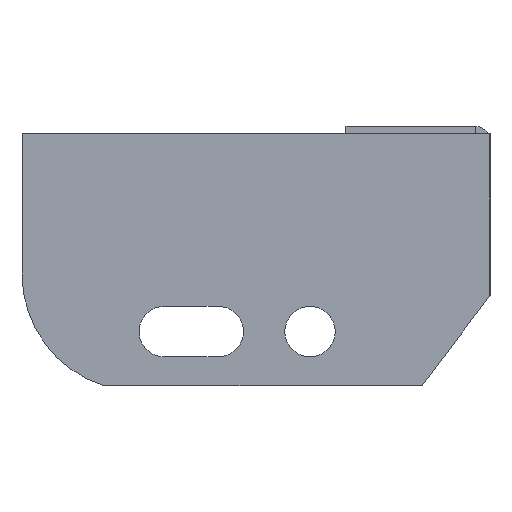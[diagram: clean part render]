
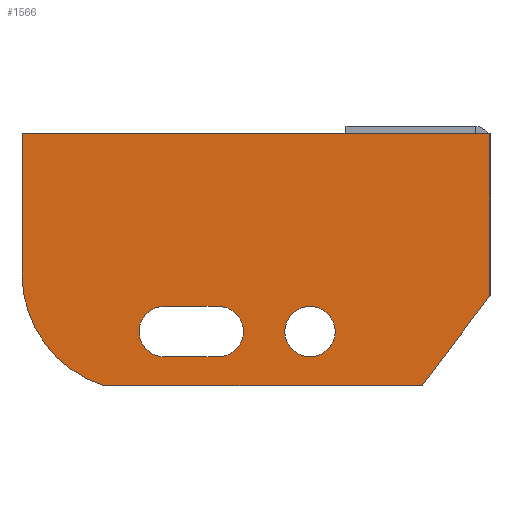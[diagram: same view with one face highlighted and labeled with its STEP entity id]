
A CAD part, left-side view. The second image highlights one B-rep face of the part: STEP entity #1566.
In plain terms, the highlighted planar face has unit normal (-1, 0, 0) as drawn and (0, 0, 1) by its records, which use the part's own axes.
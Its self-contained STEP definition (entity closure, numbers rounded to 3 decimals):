
#1 = CARTESIAN_POINT ( 'NONE',  ( -57., -55., 3. ) ) ;
#85 = DIRECTION ( 'NONE',  ( 1., 0., 0. ) ) ;
#88 = VERTEX_POINT ( 'NONE', #1084 ) ;
#103 = CARTESIAN_POINT ( 'NONE',  ( -130., -39., 3. ) ) ;
#145 = CIRCLE ( 'NONE', #832, 7. ) ;
#156 = ORIENTED_EDGE ( 'NONE', *, *, #1665, .F. ) ;
#174 = CARTESIAN_POINT ( 'NONE',  ( -90.5, -48., 3. ) ) ;
#178 = EDGE_CURVE ( 'NONE', #315, #1509, #323, .T. ) ;
#182 = DIRECTION ( 'NONE',  ( 1., 0., 0. ) ) ;
#197 = FACE_BOUND ( 'NONE', #1816, .T. ) ;
#206 = CARTESIAN_POINT ( 'NONE',  ( -50., -55., 3. ) ) ;
#219 = VERTEX_POINT ( 'NONE', #1748 ) ;
#220 = VECTOR ( 'NONE', #1913, 1000. ) ;
#226 = FACE_OUTER_BOUND ( 'NONE', #1947, .T. ) ;
#234 = DIRECTION ( 'NONE',  ( 0., 0., 1. ) ) ;
#248 = EDGE_CURVE ( 'NONE', #1177, #1603, #586, .T. ) ;
#264 = ORIENTED_EDGE ( 'NONE', *, *, #178, .T. ) ;
#275 = ORIENTED_EDGE ( 'NONE', *, *, #1085, .T. ) ;
#315 = VERTEX_POINT ( 'NONE', #978 ) ;
#323 = LINE ( 'NONE', #776, #1139 ) ;
#325 = CIRCLE ( 'NONE', #685, 7. ) ;
#337 = LINE ( 'NONE', #1271, #857 ) ;
#340 = EDGE_CURVE ( 'NONE', #851, #219, #337, .T. ) ;
#399 = EDGE_CURVE ( 'NONE', #1953, #490, #1900, .T. ) ;
#435 = DIRECTION ( 'NONE',  ( 1., 0., 0. ) ) ;
#444 = EDGE_CURVE ( 'NONE', #1928, #315, #867, .T. ) ;
#457 = CARTESIAN_POINT ( 'NONE',  ( 0., -45., 3. ) ) ;
#490 = VERTEX_POINT ( 'NONE', #566 ) ;
#500 = VERTEX_POINT ( 'NONE', #103 ) ;
#527 = DIRECTION ( 'NONE',  ( 1., 0., 0. ) ) ;
#530 = CARTESIAN_POINT ( 'NONE',  ( -90.5, -62., 3. ) ) ;
#541 = DIRECTION ( 'NONE',  ( 0., 0., 1. ) ) ;
#556 = DIRECTION ( 'NONE',  ( 1., 0., 0. ) ) ;
#566 = CARTESIAN_POINT ( 'NONE',  ( -97.5, -55., 3. ) ) ;
#574 = VECTOR ( 'NONE', #182, 1000. ) ;
#586 = CIRCLE ( 'NONE', #1636, 7. ) ;
#588 = VECTOR ( 'NONE', #1026, 1000. ) ;
#627 = ORIENTED_EDGE ( 'NONE', *, *, #444, .T. ) ;
#666 = CIRCLE ( 'NONE', #1481, 7. ) ;
#667 = CARTESIAN_POINT ( 'NONE',  ( -75.5, -55., 3. ) ) ;
#685 = AXIS2_PLACEMENT_3D ( 'NONE', #1857, #738, #435 ) ;
#738 = DIRECTION ( 'NONE',  ( 0., 0., 1. ) ) ;
#773 = DIRECTION ( 'NONE',  ( 0.602, 0.799, 0. ) ) ;
#776 = CARTESIAN_POINT ( 'NONE',  ( 0., 0., 3. ) ) ;
#777 = LINE ( 'NONE', #1343, #779 ) ;
#779 = VECTOR ( 'NONE', #1385, 1000. ) ;
#788 = VECTOR ( 'NONE', #773, 1000. ) ;
#801 = ORIENTED_EDGE ( 'NONE', *, *, #248, .F. ) ;
#823 = ORIENTED_EDGE ( 'NONE', *, *, #1235, .T. ) ;
#832 = AXIS2_PLACEMENT_3D ( 'NONE', #667, #834, #845 ) ;
#834 = DIRECTION ( 'NONE',  ( 0., 0., 1. ) ) ;
#845 = DIRECTION ( 'NONE',  ( 1., 0., 0. ) ) ;
#851 = VERTEX_POINT ( 'NONE', #530 ) ;
#853 = FACE_BOUND ( 'NONE', #1431, .T. ) ;
#857 = VECTOR ( 'NONE', #1907, 1000. ) ;
#861 = CARTESIAN_POINT ( 'NONE',  ( -90.5, -55., 3. ) ) ;
#867 = LINE ( 'NONE', #889, #588 ) ;
#884 = ORIENTED_EDGE ( 'NONE', *, *, #919, .F. ) ;
#889 = CARTESIAN_POINT ( 'NONE',  ( 0., 0., 3. ) ) ;
#916 = EDGE_CURVE ( 'NONE', #219, #1440, #145, .T. ) ;
#919 = EDGE_CURVE ( 'NONE', #1603, #1177, #666, .T. ) ;
#928 = AXIS2_PLACEMENT_3D ( 'NONE', #1192, #1524, #2000 ) ;
#949 = ORIENTED_EDGE ( 'NONE', *, *, #1791, .T. ) ;
#956 = CARTESIAN_POINT ( 'NONE',  ( -130., 0., 3. ) ) ;
#975 = CARTESIAN_POINT ( 'NONE',  ( -107.26, -70., 3. ) ) ;
#978 = CARTESIAN_POINT ( 'NONE',  ( 0., 0., 3. ) ) ;
#1011 = CARTESIAN_POINT ( 'NONE',  ( -50., -55., 3. ) ) ;
#1026 = DIRECTION ( 'NONE',  ( 0., 1., 0. ) ) ;
#1074 = CARTESIAN_POINT ( 'NONE',  ( -43., -55., 3. ) ) ;
#1084 = CARTESIAN_POINT ( 'NONE',  ( -18.839, -70., 3. ) ) ;
#1085 = EDGE_CURVE ( 'NONE', #500, #1813, #1279, .T. ) ;
#1107 = AXIS2_PLACEMENT_3D ( 'NONE', #861, #1799, #556 ) ;
#1115 = CARTESIAN_POINT ( 'NONE',  ( -18.839, -70., 3. ) ) ;
#1126 = DIRECTION ( 'NONE',  ( 0., 0., 1. ) ) ;
#1130 = EDGE_CURVE ( 'NONE', #490, #851, #325, .T. ) ;
#1139 = VECTOR ( 'NONE', #2015, 1000. ) ;
#1151 = CARTESIAN_POINT ( 'NONE',  ( -75.5, -48., 3. ) ) ;
#1160 = CARTESIAN_POINT ( 'NONE',  ( -97.5, -39., 3. ) ) ;
#1163 = DIRECTION ( 'NONE',  ( 1., 0., 0. ) ) ;
#1177 = VERTEX_POINT ( 'NONE', #1074 ) ;
#1192 = CARTESIAN_POINT ( 'NONE',  ( -97.5, -39., 3. ) ) ;
#1235 = EDGE_CURVE ( 'NONE', #88, #1928, #1589, .T. ) ;
#1271 = CARTESIAN_POINT ( 'NONE',  ( -90.5, -62., 3. ) ) ;
#1279 = CIRCLE ( 'NONE', #928, 32.5 ) ;
#1339 = ORIENTED_EDGE ( 'NONE', *, *, #1814, .T. ) ;
#1343 = CARTESIAN_POINT ( 'NONE',  ( -90.5, -48., 3. ) ) ;
#1385 = DIRECTION ( 'NONE',  ( -1., 0., 0. ) ) ;
#1419 = CARTESIAN_POINT ( 'NONE',  ( 0., -45., 3. ) ) ;
#1431 = EDGE_LOOP ( 'NONE', ( #884, #801 ) ) ;
#1440 = VERTEX_POINT ( 'NONE', #1151 ) ;
#1472 = PLANE ( 'NONE',  #1493 ) ;
#1481 = AXIS2_PLACEMENT_3D ( 'NONE', #1011, #541, #1163 ) ;
#1493 = AXIS2_PLACEMENT_3D ( 'NONE', #1160, #234, #85 ) ;
#1509 = VERTEX_POINT ( 'NONE', #1625 ) ;
#1516 = ORIENTED_EDGE ( 'NONE', *, *, #1130, .F. ) ;
#1524 = DIRECTION ( 'NONE',  ( 0., 0., 1. ) ) ;
#1535 = ORIENTED_EDGE ( 'NONE', *, *, #916, .F. ) ;
#1566 = ADVANCED_FACE ( 'NONE', ( #226, #853, #197 ), #1472, .T. ) ;
#1589 = LINE ( 'NONE', #457, #788 ) ;
#1603 = VERTEX_POINT ( 'NONE', #1 ) ;
#1625 = CARTESIAN_POINT ( 'NONE',  ( -130., 0., 3. ) ) ;
#1636 = AXIS2_PLACEMENT_3D ( 'NONE', #206, #1126, #527 ) ;
#1665 = EDGE_CURVE ( 'NONE', #1440, #1953, #777, .T. ) ;
#1748 = CARTESIAN_POINT ( 'NONE',  ( -75.5, -62., 3. ) ) ;
#1755 = LINE ( 'NONE', #1115, #574 ) ;
#1791 = EDGE_CURVE ( 'NONE', #1813, #88, #1755, .T. ) ;
#1798 = ORIENTED_EDGE ( 'NONE', *, *, #340, .F. ) ;
#1799 = DIRECTION ( 'NONE',  ( 0., 0., 1. ) ) ;
#1813 = VERTEX_POINT ( 'NONE', #975 ) ;
#1814 = EDGE_CURVE ( 'NONE', #1509, #500, #1924, .T. ) ;
#1816 = EDGE_LOOP ( 'NONE', ( #1798, #1516, #1963, #156, #1535 ) ) ;
#1857 = CARTESIAN_POINT ( 'NONE',  ( -90.5, -55., 3. ) ) ;
#1900 = CIRCLE ( 'NONE', #1107, 7. ) ;
#1907 = DIRECTION ( 'NONE',  ( 1., 0., 0. ) ) ;
#1913 = DIRECTION ( 'NONE',  ( 0., -1., 0. ) ) ;
#1924 = LINE ( 'NONE', #956, #220 ) ;
#1928 = VERTEX_POINT ( 'NONE', #1419 ) ;
#1947 = EDGE_LOOP ( 'NONE', ( #627, #264, #1339, #275, #949, #823 ) ) ;
#1953 = VERTEX_POINT ( 'NONE', #174 ) ;
#1963 = ORIENTED_EDGE ( 'NONE', *, *, #399, .F. ) ;
#2000 = DIRECTION ( 'NONE',  ( 1., 0., 0. ) ) ;
#2015 = DIRECTION ( 'NONE',  ( -1., 0., 0. ) ) ;
